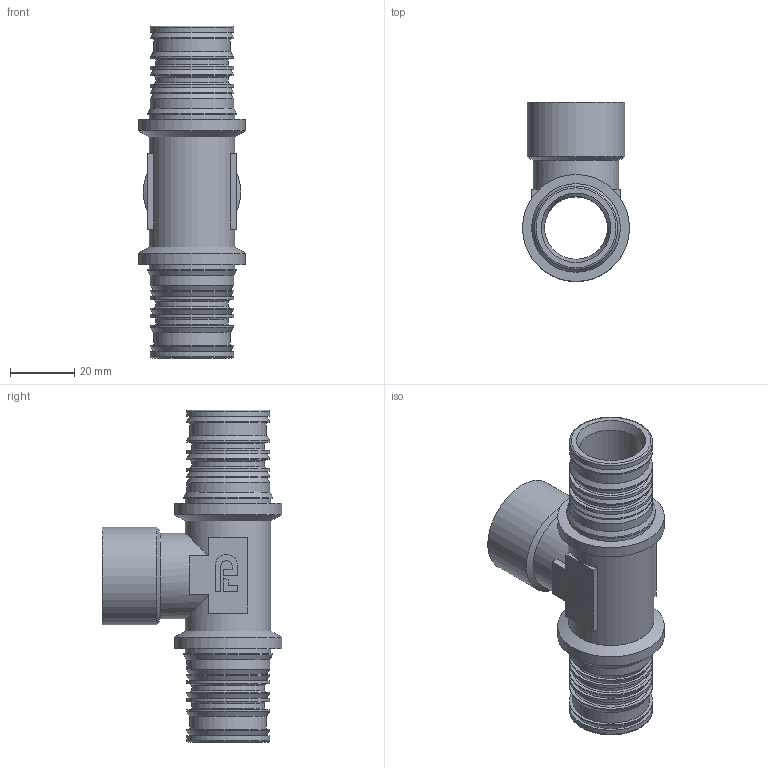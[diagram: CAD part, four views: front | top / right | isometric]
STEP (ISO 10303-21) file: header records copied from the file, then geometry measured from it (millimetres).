
FILE_DESCRIPTION(/* description */ (''),/* implementation_level */ '2;1');
FILE_NAME(/* name */ 'C:\Users\Doom\Desktop\Фадотех\Пресс\HDT16-1 31.03.2020\HDT16-1 31.03.2020.stp',/* time_stamp */ '2022-08-12T17:43:14+03:00',/* author */ ('Doom'),/* organization */ (''),/* preprocessor_version */ 'ST-DEVELOPER v18',/* originating_system */ 'Autodesk Inventor 2020',/* authorisation */ '');
FILE_SCHEMA (('AUTOMOTIVE_DESIGN { 1 0 10303 214 3 1 1 }'));
Length unit declared in the file: millimetre
Products named in the file (1): HDT16-1 31.03.2020
Bounding box: 33.19 x 55.59 x 103 mm (x, y, z)
Volume: 32389.1 mm3; surface area: 26099.3 mm2
Topology: 2 solids, 2 shells, 167 faces, 473 edges, 334 vertices
Faces by surface type: plane 80, cylinder 45, cone 18, bspline 14, torus 10
Full cylindrical faces by diameter (mm): 19.5 x1, 20 x1, 22.6 x4, 23.71 x8, 23.8 x2, 25.8 x16, 26.4 x2, 26.5 x4, 27.5 x2, 30.2 x1, 33.186 x2
Entity records: 9823 total; most frequent: CARTESIAN_POINT 5330, ORIENTED_EDGE 938, DIRECTION 937, EDGE_CURVE 469, AXIS2_PLACEMENT_3D 369, VERTEX_POINT 332, CIRCLE 211, EDGE_LOOP 199
